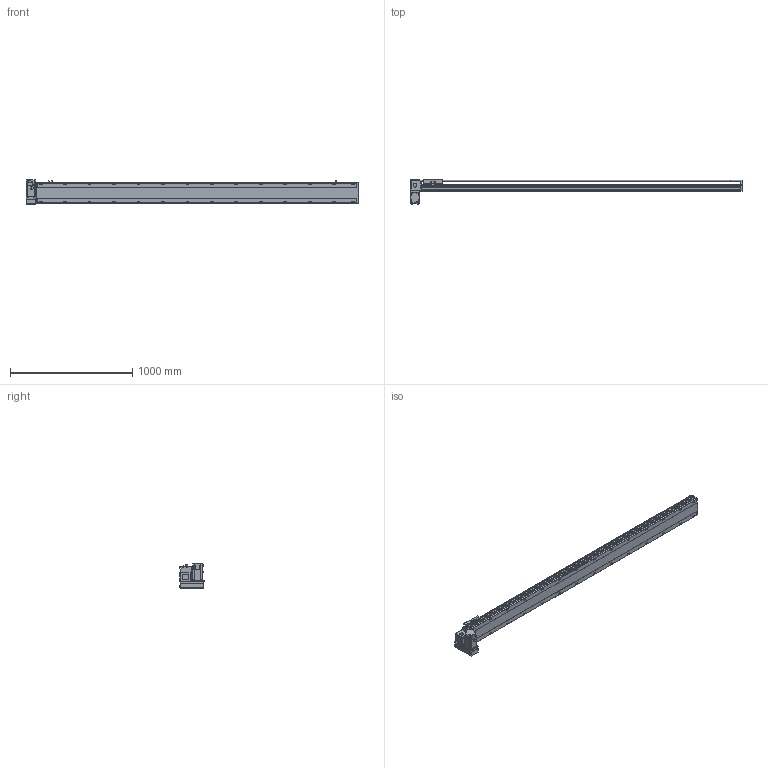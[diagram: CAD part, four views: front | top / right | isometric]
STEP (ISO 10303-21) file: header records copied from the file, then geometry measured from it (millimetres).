
FILE_DESCRIPTION( ( 'STEP AP214' ), '1' );
FILE_NAME( 'x:/temp/worker_4/temp/exporttempdir_2248_359_GAaol/format_0/PBS170-P40-S2350-LD-T75-C1-N(0).stp', '2022-06-07T07:56:02', ( 'License CC BY-ND 4.0' ), ( 'CADENAS' ), ' ', 'PARTsolutions', ' ' );
FILE_SCHEMA( ( 'AUTOMOTIVE_DESIGN { 1 0 10303 214 1 1 1 1 }' ) );
Length unit declared in the file: millimetre
Products named in the file (7): PBS170-P40-S2350-LD-T75-C1-N(0); _PBS170-S2350()_body; _PBS170T-LD_motors; _T75-p1; _PBS170_sliser; _PBS170_plant; _PBS170_sensor
Assembly tree (8 placements, depth 2):
  PBS170-P40-S2350-LD-T75-C1-N(0)
    _PBS170-S2350()_body
    _PBS170T-LD_motors
    _T75-p1
    _PBS170_sliser
    _PBS170_plant
    _PBS170_sensor  x3
Bounding box: 2713 x 201 x 197.3 mm (x, y, z)
Volume: 20610159.3 mm3; surface area: 2600493.6 mm2
Topology: 8 solids, 8 shells, 1178 faces, 3115 edges, 2030 vertices
Faces by surface type: plane 723, cylinder 387, cone 58, sphere 8, torus 2
Full cylindrical faces by diameter (mm): 3.242 x4, 4 x2, 4.4 x4, 4.5 x6, 4.917 x4, 6 x9, 6.647 x36, 7 x2, 7.5 x4, 8 x8, 8.5 x28, 10 x4, 10.5 x28, 11 x2, 30 x2, 40 x1, 70 x1
Entity records: 43592 total; most frequent: CARTESIAN_POINT 7229, DIRECTION 5720, ORIENTED_EDGE 5388, EDGE_CURVE 2694, AXIS2_PLACEMENT_3D 2017, VERTEX_POINT 1874, LINE 1686, VECTOR 1686
